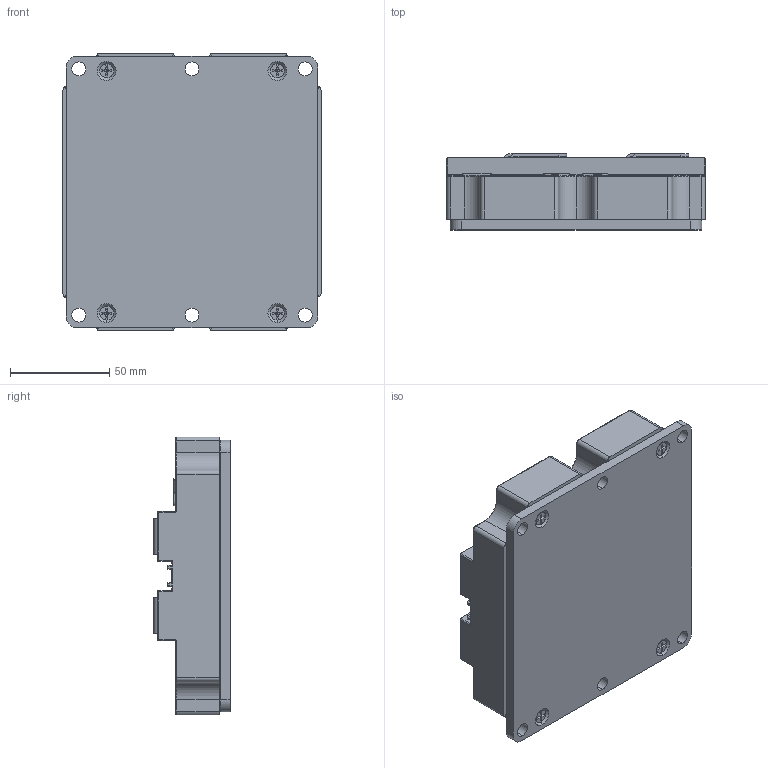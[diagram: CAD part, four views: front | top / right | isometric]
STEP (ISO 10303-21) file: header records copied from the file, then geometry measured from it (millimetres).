
FILE_DESCRIPTION (( 'STEP AP214' ), '1' );
FILE_NAME ('LD-ES-170634-MBN1600F17F.STEP', '2021-07-08T06:38:21', ( '' ), ( '' ), 'SwSTEP 2.0', 'SolidWorks 2019', '' );
FILE_SCHEMA (( 'AUTOMOTIVE_DESIGN' ));
Length unit declared in the file: millimetre
Products named in the file (1): LD-ES-170634-MBN1600F17F
Bounding box: 130 x 38.5 x 140 mm (x, y, z)
Volume: 517280.6 mm3; surface area: 75718.3 mm2
Topology: 1 solids, 5 shells, 964 faces, 2478 edges, 1600 vertices
Faces by surface type: plane 470, cylinder 336, bspline 69, torus 47, cone 38, sphere 4
Entity records: 32042 total; most frequent: CARTESIAN_POINT 8372, ORIENTED_EDGE 4956, DIRECTION 4835, EDGE_CURVE 2478, AXIS2_PLACEMENT_3D 1632, VERTEX_POINT 1600, VECTOR 1571, LINE 1571
